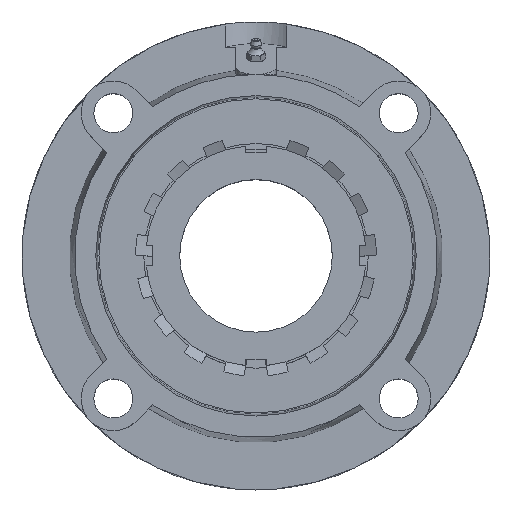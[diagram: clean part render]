
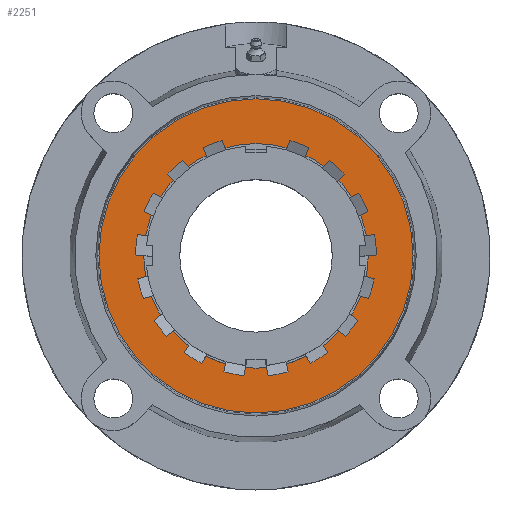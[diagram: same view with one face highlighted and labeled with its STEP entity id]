
A CAD part, top view. The second image highlights one B-rep face of the part: STEP entity #2251.
In plain terms, the highlighted planar face has unit normal (0, 0, 1).
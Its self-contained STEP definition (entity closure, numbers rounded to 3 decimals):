
#2217=CARTESIAN_POINT('',(0.0,66.25,21.));
#2218=VERTEX_POINT('',#2217);
#2219=CARTESIAN_POINT('',(0.0,0.0,21.));
#2220=DIRECTION('',(0.0,0.0,-1.0));
#2221=DIRECTION('',(0.0,1.0,0.0));
#2222=AXIS2_PLACEMENT_3D('',#2219,#2220,#2221);
#2223=CIRCLE('',#2222,66.25);
#2224=EDGE_CURVE('',#2218,#2218,#2223,.T.);
#2232=CARTESIAN_POINT('',(0.0,79.45,21.));
#2233=DIRECTION('',(0.0,0.0,1.0));
#2234=DIRECTION('',(1.0,0.0,0.0));
#2235=AXIS2_PLACEMENT_3D('',#2232,#2233,#2234);
#2236=PLANE('',#2235);
#2237=CARTESIAN_POINT('',(0.0,92.65,21.));
#2238=VERTEX_POINT('',#2237);
#2239=CARTESIAN_POINT('',(0.0,0.0,21.));
#2240=DIRECTION('',(0.0,0.0,-1.0));
#2241=DIRECTION('',(0.0,1.0,0.0));
#2242=AXIS2_PLACEMENT_3D('',#2239,#2240,#2241);
#2243=CIRCLE('',#2242,92.65);
#2244=EDGE_CURVE('',#2238,#2238,#2243,.T.);
#2245=ORIENTED_EDGE('',*,*,#2244,.F.);
#2246=EDGE_LOOP('',(#2245));
#2247=FACE_OUTER_BOUND('',#2246,.T.);
#2248=ORIENTED_EDGE('',*,*,#2224,.T.);
#2249=EDGE_LOOP('',(#2248));
#2250=FACE_BOUND('',#2249,.T.);
#2251=ADVANCED_FACE('',(#2247,#2250),#2236,.T.);
